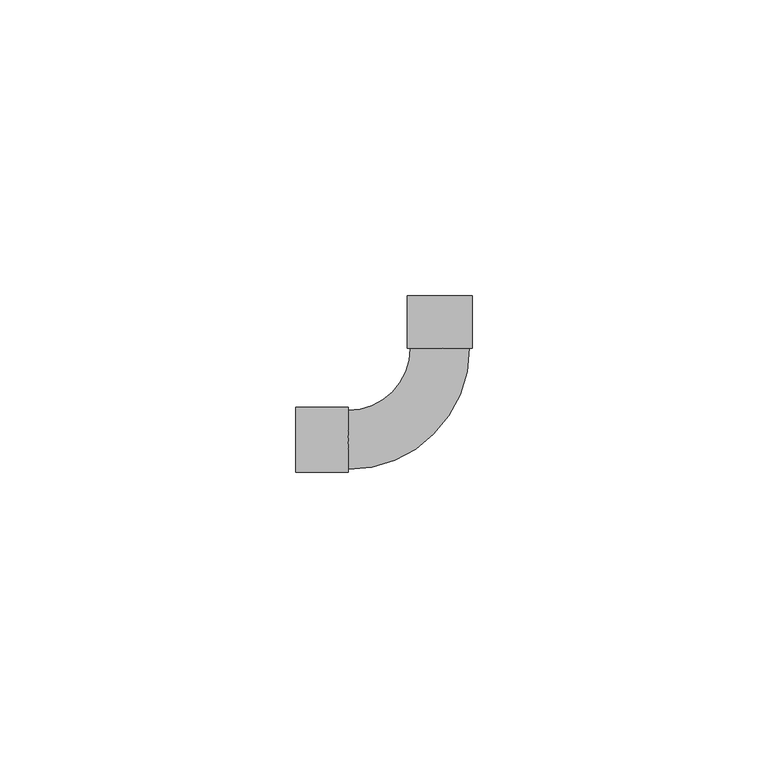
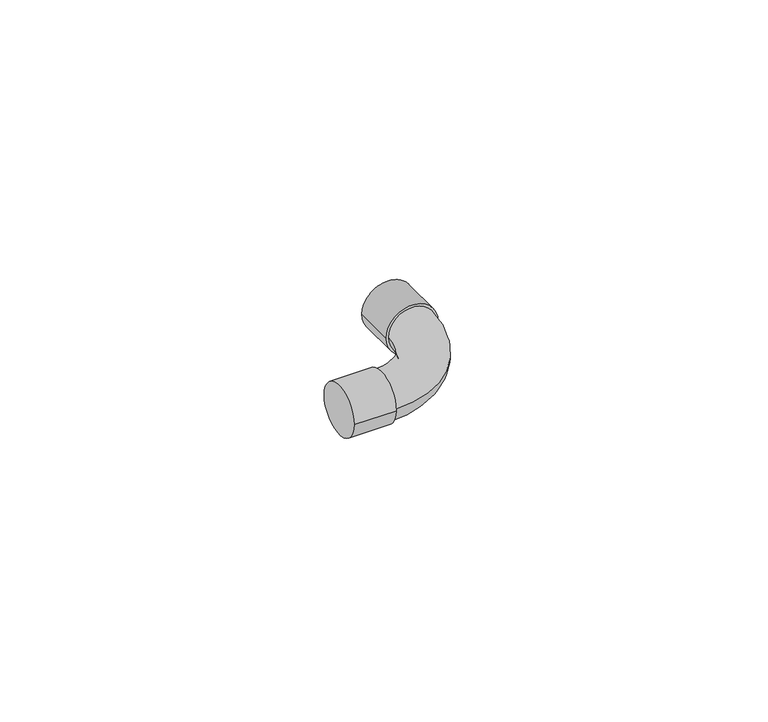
"""IFC4 building model written with IfcOpenShell, lengths in millimetres: pipe fitting geometry, Cotovelo - Soldado - CU : Padrão."""

from ifc_helpers import new_model, si_unit, point, frame, origin, place, context, project, spatial, circle_curve, ellipse_curve, trimmed, source, transform, mapped, element, save
from ifc_brep_helpers import plane_surface, cylinder_surface, revolved_surface, advanced_brep


def pipe_fitting_09a8df96(model_context):
    return source(origin(), model_context, "Body", "AdvancedBrep", [
        advanced_brep(
        [(-4.9994471, 15.5001784, 0.0), (-15.5, 5.0, 0.0), (-15.5, -5.0, 0.0), (5.0005529, 15.4998216, 0.0), (-24.4, -5.5, 0.0), (-24.4, 5.5, 0.0), (-15.5, -5.5, 0.0), (-15.5, 5.5, 0.0), (-5.4991296, 24.4001962, 0.0), (5.5008704, 24.3998038, 0.0), (-5.4994471, 15.5001962, 0.0), (5.5005529, 15.4998038, 0.0)],
        [
            (0, 1, circle_curve(frame((-15.5, 15.5005529, 0.0), z_axis=(0.0, 0.0, -1.0), x_axis=(0.0, -1.0, 0.0)), 10.5005529)),
            (1, 2, circle_curve(frame((-15.5, 0.0, 0.0), z_axis=(1.0, 0.0, 0.0), x_axis=(0.0, 1.0, 0.0)), 5.0)),
            (2, 3, circle_curve(frame((-15.5, 15.5005529, 0.0), z_axis=(0.0, 0.0, 1.0), x_axis=(0.0, -1.0, 0.0)), 20.5005529)),
            (3, 0, circle_curve(frame((0.0005529, 15.5, 0.0), z_axis=(-3.567322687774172e-05, -0.9999999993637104, 0.0), x_axis=(-0.9999999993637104, 3.567322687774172e-05, 0.0)), 5.0)),
            (0, 3, circle_curve(frame((0.0005529, 15.5, 0.0), z_axis=(-3.567322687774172e-05, -0.9999999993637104, 0.0), x_axis=(-0.9999999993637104, 3.567322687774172e-05, 0.0)), 5.0)),
            (2, 1, circle_curve(frame((-15.5, 0.0, 0.0), z_axis=(1.0, 0.0, 0.0), x_axis=(0.0, 1.0, 0.0)), 5.0)),
            (4, 5, circle_curve(frame((-24.4, 0.0, 0.0), z_axis=(-1.0, 0.0, 0.0), x_axis=(0.0, 1.0, 0.0)), 5.5)),
            (5, 4, circle_curve(frame((-24.4, 0.0, 0.0), z_axis=(-1.0, 0.0, 0.0), x_axis=(0.0, 1.0, 0.0)), 5.5)),
            (6, 7, circle_curve(frame((-15.5, 0.0, 0.0), z_axis=(1.0, 0.0, 0.0), x_axis=(0.0, 1.0, 0.0)), 5.5)),
            (7, 6, circle_curve(frame((-15.5, 0.0, 0.0), z_axis=(1.0, 0.0, 0.0), x_axis=(0.0, 1.0, 0.0)), 5.5)),
            (4, 6),
            (7, 5),
            (8, 9, circle_curve(frame((0.0008704, 24.4, 0.0), z_axis=(3.567322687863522e-05, 0.9999999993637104, 0.0), x_axis=(0.9999999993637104, -3.567322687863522e-05, 0.0)), 5.5)),
            (9, 8, circle_curve(frame((0.0008704, 24.4, 0.0), z_axis=(3.567322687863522e-05, 0.9999999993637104, 0.0), x_axis=(0.9999999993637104, -3.567322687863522e-05, 0.0)), 5.5)),
            (10, 11, circle_curve(frame((0.0005529, 15.5, 0.0), z_axis=(-3.567322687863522e-05, -0.9999999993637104, 0.0), x_axis=(0.9999999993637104, -3.567322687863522e-05, 0.0)), 5.5)),
            (11, 10, circle_curve(frame((0.0005529, 15.5, 0.0), z_axis=(-3.567322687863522e-05, -0.9999999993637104, 0.0), x_axis=(0.9999999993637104, -3.567322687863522e-05, 0.0)), 5.5)),
            (8, 10),
            (11, 9),
        ],
        [
            revolved_surface(trimmed(ellipse_curve(frame((-15.5, 0.0, 0.0), z_axis=(-1.0, 0.0, 0.0), x_axis=(0.0, 1.0, 0.0)), 5.0, 5.0), [point((-15.5, -5.0, 0.0))], [point((-15.5, 5.0, 0.0))], True, "CARTESIAN"), (-15.5, 15.5005529, 0.0), (0.0, 0.0, 1.0)),
            revolved_surface(trimmed(ellipse_curve(frame((-15.5, 0.0, 0.0), z_axis=(-1.0, 0.0, 0.0), x_axis=(0.0, 1.0, 0.0)), 5.0, 5.0), [point((-15.5, 5.0, 0.0))], [point((-15.5, -5.0, 0.0))], True, "CARTESIAN"), (-15.5, 15.5005529, 0.0), (0.0, 0.0, 1.0)),
            plane_surface(frame((-24.4, 0.0, 0.0), z_axis=(-1.0, 0.0, 0.0), x_axis=(0.0, 0.0, 1.0))),
            plane_surface(frame((-15.5, 0.0, 0.0), z_axis=(1.0, 0.0, 0.0), x_axis=(0.0, 0.0, 1.0))),
            cylinder_surface(frame((-24.4, 0.0, 0.0), z_axis=(-1.0, 0.0, 0.0), x_axis=(0.0, 1.0, 0.0)), 5.5),
            plane_surface(frame((0.0008704, 24.4, 0.0), z_axis=(3.567322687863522e-05, 0.9999999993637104, 0.0), x_axis=(0.0, 0.0, 1.0))),
            plane_surface(frame((0.0005529, 15.5, 0.0), z_axis=(-3.567322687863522e-05, -0.9999999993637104, 0.0), x_axis=(0.0, 0.0, 1.0))),
            cylinder_surface(frame((0.0008704, 24.4, 0.0), z_axis=(3.567322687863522e-05, 0.9999999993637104, 0.0), x_axis=(0.9999999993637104, -3.567322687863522e-05, 0.0)), 5.5),
        ],
        [
            (0, [[1, 2, 3, 4]]),
            (1, [[-1, 5, -3, 6]]),
            (2, [[7, 8]]),
            (3, [[9, 10], [-2, -6]]),
            (4, [[-7, 11, -10, 12]]),
            (4, [[-8, -12, -9, -11]]),
            (5, [[13, 14]]),
            (6, [[15, 16], [-4, -5]]),
            (7, [[-13, 17, -16, 18]]),
            (7, [[-14, -18, -15, -17]]),
        ],
    ),
    ])


if __name__ == "__main__":
    model = new_model("IFC4")
    model_context = context("Model", 3, world=origin())
    ifc_project = project(units=[si_unit("LENGTHUNIT", "METRE", prefix="MILLI")], contexts=[model_context])
    site = spatial("IfcSite", under=ifc_project)
    building = spatial("IfcBuilding", under=site)
    placement = place(None, origin())
    pipe_fitting_shape = pipe_fitting_09a8df96(model_context)
    element("IfcPipeFitting", 1, ObjectType="Cotovelo - Soldado - CU : Padrão", at=placement, inside=building, context=model_context, shape_type="MappedRepresentation", body=[
        mapped(pipe_fitting_shape, transform((0.0, 0.0, 0.0), x_axis=(1.0, 0.0, 0.0), y_axis=(0.0, 1.0, 0.0), z_axis=(0.0, 0.0, 1.0))),
    ])
    save(model, "model.ifc")
